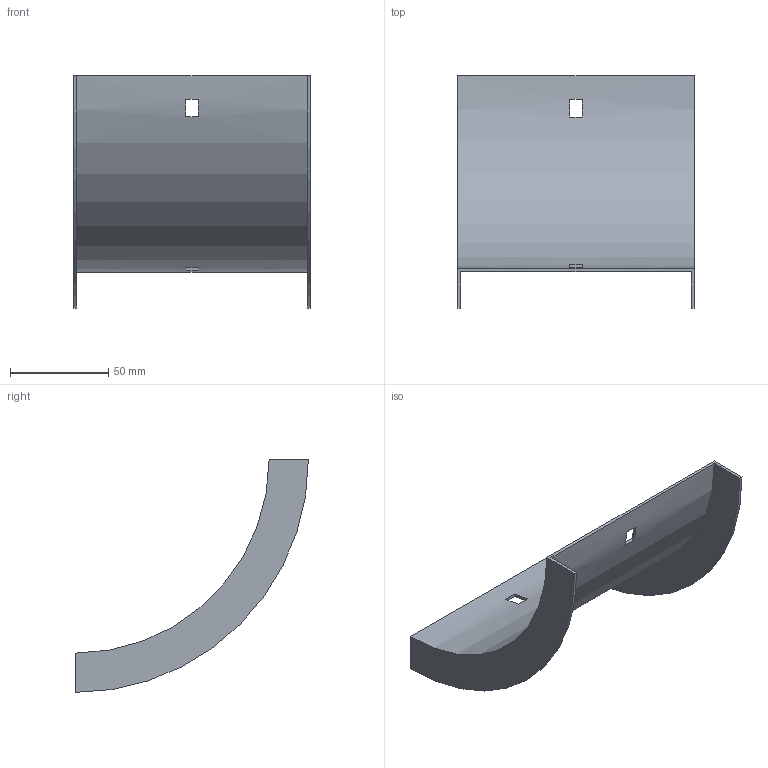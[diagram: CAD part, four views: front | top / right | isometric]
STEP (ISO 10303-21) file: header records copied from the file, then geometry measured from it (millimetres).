
FILE_DESCRIPTION (( 'STEP AP214' ), '1' );
FILE_NAME ('30N1R117.step', '2025-02-21T09:23:40', ( '' ), ( '' ), 'SwSTEP 2.0', 'SolidWorks 2023', '' );
FILE_SCHEMA (( 'AUTOMOTIVE_DESIGN' ));
Length unit declared in the file: millimetre
Products named in the file (1): 30N1R117
Bounding box: 120.5 x 118.5 x 118.5 mm (x, y, z)
Volume: 37525.5 mm3; surface area: 51155.7 mm2
Topology: 1 solids, 1 shells, 18 faces, 48 edges, 32 vertices
Faces by surface type: plane 14, cylinder 4
Entity records: 599 total; most frequent: DIRECTION 102, CARTESIAN_POINT 99, ORIENTED_EDGE 96, EDGE_CURVE 48, AXIS2_PLACEMENT_3D 35, VECTOR 32, LINE 32, VERTEX_POINT 32
